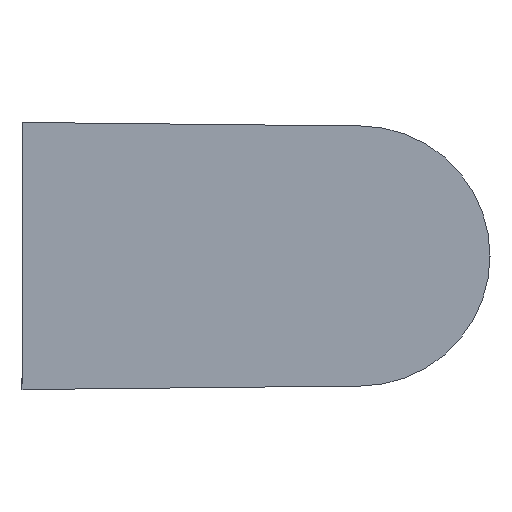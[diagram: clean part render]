
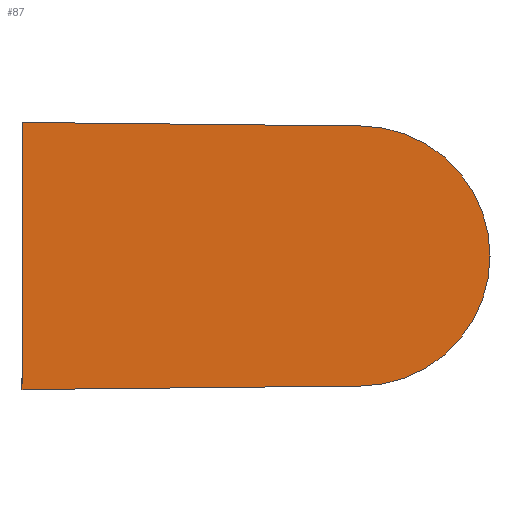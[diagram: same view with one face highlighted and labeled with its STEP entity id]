
A CAD part, left-side view. The second image highlights one B-rep face of the part: STEP entity #87.
In plain terms, the highlighted planar face has unit normal (-1, 0, 0).
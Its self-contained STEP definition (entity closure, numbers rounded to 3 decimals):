
#87 = ADVANCED_FACE( '', ( #122 ), #123, .F. );
#122 = FACE_OUTER_BOUND( '', #166, .T. );
#123 = PLANE( '', #167 );
#166 = EDGE_LOOP( '', ( #268, #269, #270, #271 ) );
#167 = AXIS2_PLACEMENT_3D( '', #272, #273, #274 );
#268 = ORIENTED_EDGE( '', *, *, #356, .F. );
#269 = ORIENTED_EDGE( '', *, *, #350, .F. );
#270 = ORIENTED_EDGE( '', *, *, #353, .F. );
#271 = ORIENTED_EDGE( '', *, *, #355, .F. );
#272 = CARTESIAN_POINT( '', ( -6., 0., 0. ) );
#273 = DIRECTION( '', ( 1., 0., 0. ) );
#274 = DIRECTION( '', ( 0., 0., -1. ) );
#350 = EDGE_CURVE( '', #407, #409, #410, .T. );
#353 = EDGE_CURVE( '', #412, #407, #414, .T. );
#355 = EDGE_CURVE( '', #415, #412, #417, .T. );
#356 = EDGE_CURVE( '', #409, #415, #418, .T. );
#407 = VERTEX_POINT( '', #486 );
#409 = VERTEX_POINT( '', #489 );
#410 = LINE( '', #490, #491 );
#412 = VERTEX_POINT( '', #494 );
#414 = LINE( '', #497, #498 );
#415 = VERTEX_POINT( '', #499 );
#417 = CIRCLE( '', #502, 12.5 );
#418 = LINE( '', #503, #504 );
#486 = CARTESIAN_POINT( '', ( -6., 0., -12.841 ) );
#489 = CARTESIAN_POINT( '', ( -6., 0., 12.841 ) );
#490 = CARTESIAN_POINT( '', ( -6., 0., -12.841 ) );
#491 = VECTOR( '', #582, 1. );
#494 = CARTESIAN_POINT( '', ( -6., -32.631, -12.499 ) );
#497 = CARTESIAN_POINT( '', ( -6., -32.631, -12.499 ) );
#498 = VECTOR( '', #585, 1. );
#499 = CARTESIAN_POINT( '', ( -6., -32.631, 12.499 ) );
#502 = AXIS2_PLACEMENT_3D( '', #587, #588, #589 );
#503 = CARTESIAN_POINT( '', ( -6., 0., 12.841 ) );
#504 = VECTOR( '', #590, 1. );
#582 = DIRECTION( '', ( 0., 0., 1. ) );
#585 = DIRECTION( '', ( 0., 1., -0.01 ) );
#587 = CARTESIAN_POINT( '', ( -6., -32.5, 0. ) );
#588 = DIRECTION( '', ( 1., 0., 0. ) );
#589 = DIRECTION( '', ( 0., -0.01, 1. ) );
#590 = DIRECTION( '', ( 0., -1., -0.01 ) );
